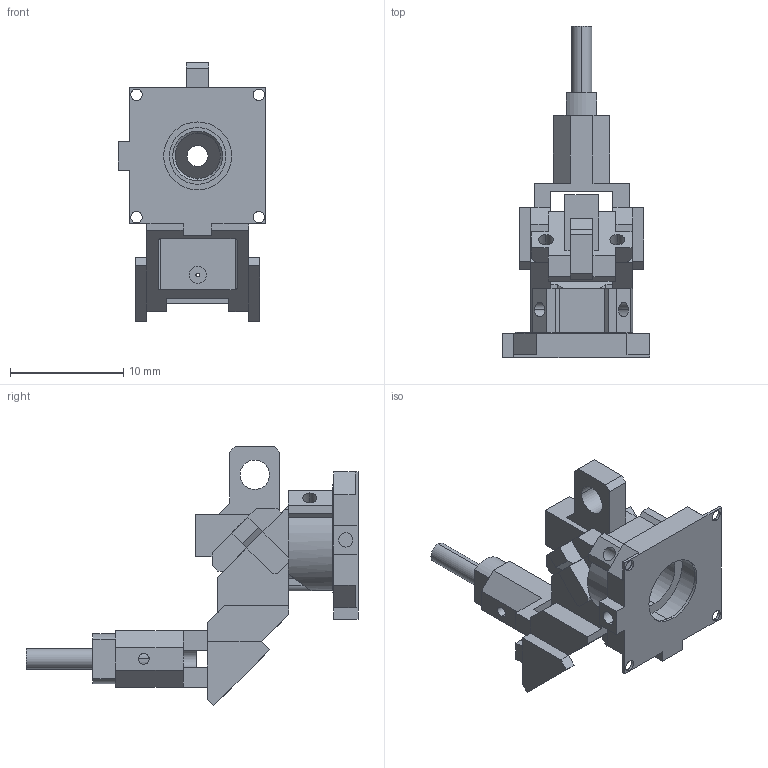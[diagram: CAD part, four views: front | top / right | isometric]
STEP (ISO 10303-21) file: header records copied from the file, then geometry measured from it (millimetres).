
FILE_DESCRIPTION (( 'STEP AP203' ), '1' );
FILE_NAME ('LFOV_model_withColim_GlassFlange.STEP', '2021-07-30T09:32:19', ( '' ), ( '' ), 'SwSTEP 2.0', 'SolidWorks 2020', '' );
FILE_SCHEMA (( 'CONFIG_CONTROL_DESIGN' ));
Length unit declared in the file: millimetre
Products named in the file (8): 102-ScopeBody P1 ___; 33-GlassFlange; LFOV_model_withColim_GlassFlange; 106-Baseplate; 104-ScopeBody P3 ___; 26-CollimatorHolder___; 103-ScopeBody P2 ; Scopebody adapter_V2_lateralshifting_ML+0400_AP+0800___
Assembly tree (7 placements, depth 2):
  LFOV_model_withColim_GlassFlange
    102-ScopeBody P1 ___
    103-ScopeBody P2 
    104-ScopeBody P3 ___
    Scopebody adapter_V2_lateralshifting_ML+0400_AP+0800___
    106-Baseplate
    26-CollimatorHolder___
    33-GlassFlange
Bounding box: 13 x 29.31 x 22.87 mm (x, y, z)
Volume: 969.4 mm3; surface area: 2481.3 mm2
Topology: 7 solids, 7 shells, 335 faces, 904 edges, 584 vertices
Faces by surface type: plane 224, cylinder 87, cone 20, torus 4
Entity records: 11412 total; most frequent: CARTESIAN_POINT 2007, ORIENTED_EDGE 1792, DIRECTION 1750, EDGE_CURVE 896, LINE 676, VECTOR 676, VERTEX_POINT 584, AXIS2_PLACEMENT_3D 537
